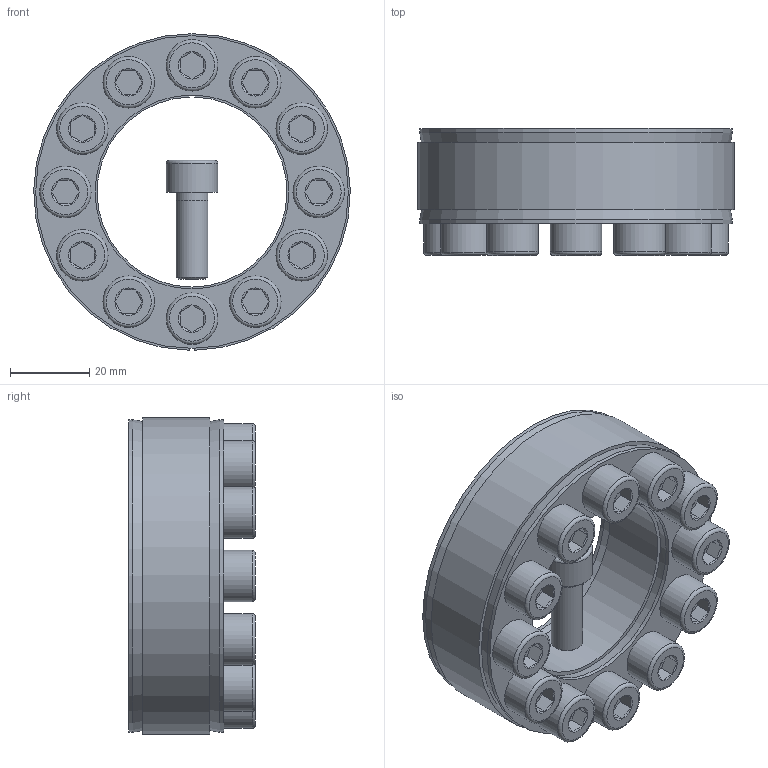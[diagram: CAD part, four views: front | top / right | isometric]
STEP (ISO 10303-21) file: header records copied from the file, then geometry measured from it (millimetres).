
FILE_DESCRIPTION( ( 'Unknown' ), '1' );
FILE_NAME( 'C:/Dokumente und Einstellungen/Sven/Desktop/homepage/cad - homepage/KBS40/KBS 40 - 48 x 80.stp', 'Unknown', ( 'Unknown' ), ( 'Unknown' ), 'XStep 1.0', 'Unknown', ' ' );
FILE_SCHEMA( ( 'automotive_design' ) );
Length unit declared in the file: millimetre
Products named in the file (14): Assem1; KBS 40 48x80; ISO 4762 M8x22; ISO 4762 M8x22-oa0; ISO 4762 M8x22-oa1; ISO 4762 M8x22-oa2; ISO 4762 M8x22-oa3; ISO 4762 M8x22-oa4; ISO 4762 M8x22-oa5; ISO 4762 M8x22-oa6; ISO 4762 M8x22-oa7; ISO 4762 M8x22-oa8; ISO 4762 M8x22-oa9; ISO 4762 M8x22-oa10
Bounding box: 80 x 32 x 79.99 mm (x, y, z)
Volume: 170331.9 mm3; surface area: 74710.9 mm2
Topology: 26 solids, 26 shells, 684 faces, 1268 edges, 732 vertices
Faces by surface type: plane 328, cone 176, cylinder 132, torus 48
Full cylindrical faces by diameter (mm): 7 x24, 8 x72, 13 x24, 49 x4, 79 x4
Entity records: 8451 total; most frequent: CARTESIAN_POINT 1752, DIRECTION 1392, ORIENTED_EDGE 1008, AXIS2_PLACEMENT_3D 604, EDGE_LOOP 520, EDGE_CURVE 504, FACE_OUTER_BOUND 430, ADVANCED_FACE 342
